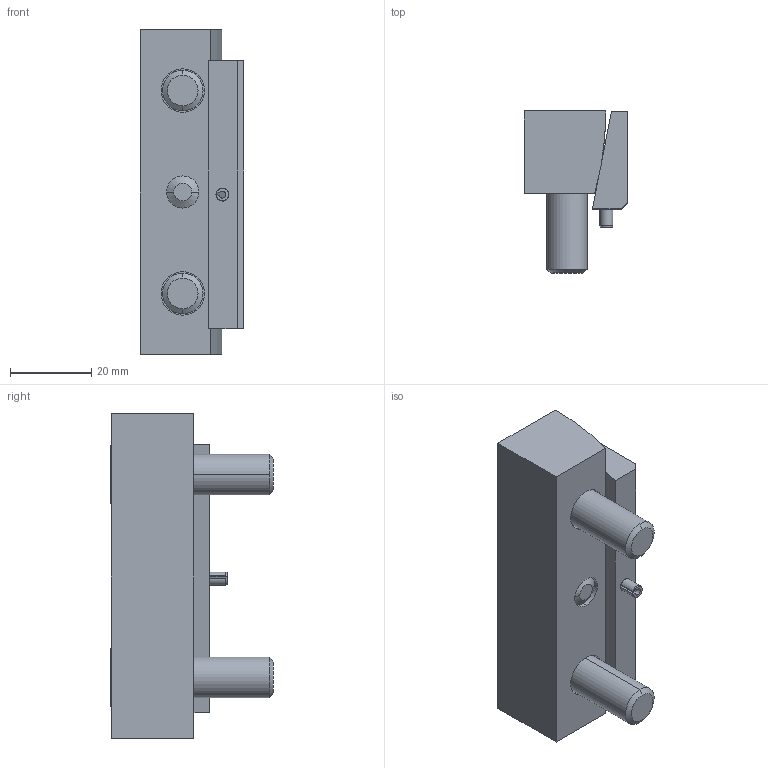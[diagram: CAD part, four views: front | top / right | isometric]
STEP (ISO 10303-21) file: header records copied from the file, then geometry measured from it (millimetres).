
FILE_DESCRIPTION (( 'STEP AP203' ), '1' );
FILE_NAME ('06-0129, BOT20WEDGE.STEP', '2022-07-18T22:27:30', ( '' ), ( '' ), 'SwSTEP 2.0', 'SolidWorks 2021', '' );
FILE_SCHEMA (( 'CONFIG_CONTROL_DESIGN' ));
Length unit declared in the file: inch
Products named in the file (1): 06-0129, BOT20WEDGE
Bounding box: 25.4 x 40 x 80.01 mm (x, y, z)
Surface area: 17223.5 mm2 (no closed solid volume)
Topology: 0 solids, 8 shells, 92 faces, 211 edges, 132 vertices
Faces by surface type: plane 41, cone 26, cylinder 25
Entity records: 2812 total; most frequent: CARTESIAN_POINT 646, DIRECTION 460, ORIENTED_EDGE 388, EDGE_CURVE 211, AXIS2_PLACEMENT_3D 174, VERTEX_POINT 132, LINE 112, VECTOR 112
